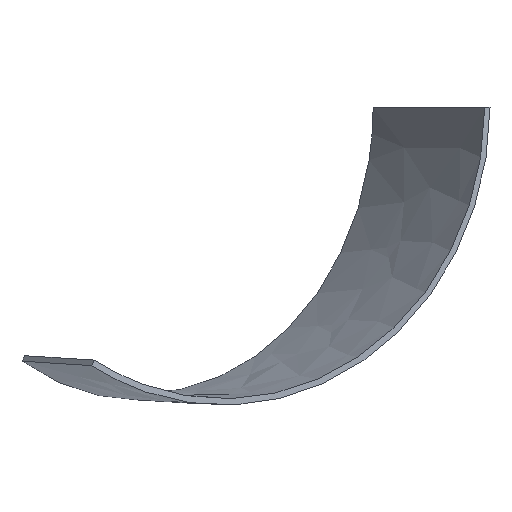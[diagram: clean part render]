
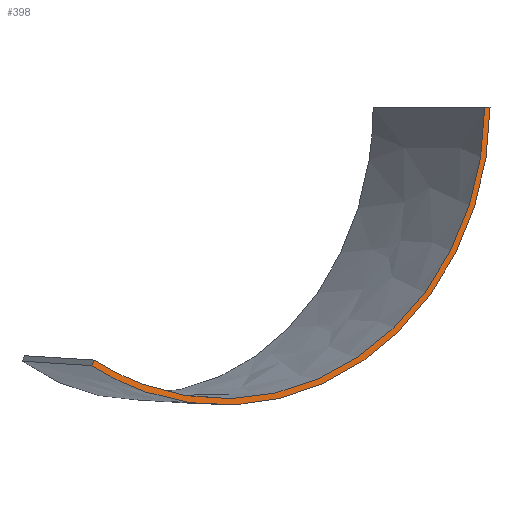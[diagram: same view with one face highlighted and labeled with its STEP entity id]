
A CAD part, left-side view. The second image highlights one B-rep face of the part: STEP entity #398.
In plain terms, the highlighted free-form (B-spline) face has degree [1, 3] with [2, 10] control points.
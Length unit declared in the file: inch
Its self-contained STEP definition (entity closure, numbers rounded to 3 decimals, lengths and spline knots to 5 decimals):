
#4 = CARTESIAN_POINT ( 'NONE',  ( 66.66583, -130.83906, -22.54515 ) ) ;
#5 = CARTESIAN_POINT ( 'NONE',  ( 51.76508, -101.59469, -34.54213 ) ) ;
#7 = VERTEX_POINT ( 'NONE', #56 ) ;
#9 = CARTESIAN_POINT ( 'NONE',  ( 70.14569, -137.66867, -6.16509 ) ) ;
#12 = CARTESIAN_POINT ( 'NONE',  ( 57.33888, -112.46132, -35.26935 ) ) ;
#13 = EDGE_CURVE ( 'NONE', #453, #44, #16, .T. ) ;
#16 = B_SPLINE_CURVE_WITH_KNOTS ( 'NONE', 1,
 ( #338, #257 ),
 .UNSPECIFIED., .F., .F.,
 ( 2, 2 ),
 ( 0., 1. ),
 .UNSPECIFIED. ) ;
#20 = CARTESIAN_POINT ( 'NONE',  ( 70.56301, -138.31785, -0.1277 ) ) ;
#25 = CARTESIAN_POINT ( 'NONE',  ( 46.51891, -91.30231, -30.61811 ) ) ;
#44 = VERTEX_POINT ( 'NONE', #362 ) ;
#48 = CARTESIAN_POINT ( 'NONE',  ( 69.41659, -136.23772, -12.09429 ) ) ;
#55 = CARTESIAN_POINT ( 'NONE',  ( 70.55284, -138.29797, -6.29826 ) ) ;
#56 = CARTESIAN_POINT ( 'NONE',  ( 46.51891, -91.30231, -30.61811 ) ) ;
#58 = CARTESIAN_POINT ( 'NONE',  ( 59.94251, -117.6438, -32.925 ) ) ;
#63 = CARTESIAN_POINT ( 'NONE',  ( 66.98755, -131.3271, -23.0329 ) ) ;
#66 = EDGE_CURVE ( 'NONE', #453, #326, #124, .T. ) ;
#94 = CARTESIAN_POINT ( 'NONE',  ( 46.68963, -91.63355, -29.96724 ) ) ;
#97 = CARTESIAN_POINT ( 'NONE',  ( 69.80587, -136.8375, -12.35563 ) ) ;
#101 = CARTESIAN_POINT ( 'NONE',  ( 64.69207, -126.96534, -26.88488 ) ) ;
#104 = CARTESIAN_POINT ( 'NONE',  ( 66.66583, -130.83906, -22.54515 ) ) ;
#124 = B_SPLINE_CURVE_WITH_KNOTS ( 'NONE', 3,
 ( #353, #139, #48, #4, #143, #380, #302, #252, #224, #383 ),
 .UNSPECIFIED., .F., .F.,
 ( 4, 2, 2, 2, 4 ),
 ( 0., 0.25, 0.5, 0.75, 1. ),
 .UNSPECIFIED. ) ;
#139 = CARTESIAN_POINT ( 'NONE',  ( 70.14569, -137.66867, -6.16509 ) ) ;
#143 = CARTESIAN_POINT ( 'NONE',  ( 64.69207, -126.96534, -26.88488 ) ) ;
#148 = CARTESIAN_POINT ( 'NONE',  ( 48.95707, -96.07076, -33.68441 ) ) ;
#151 = CARTESIAN_POINT ( 'NONE',  ( 69.41659, -136.23772, -12.09429 ) ) ;
#154 = CARTESIAN_POINT ( 'NONE',  ( 46.68963, -91.63355, -29.96724 ) ) ;
#181 = CARTESIAN_POINT ( 'NONE',  ( 49.06936, -96.30403, -32.96835 ) ) ;
#186 = CARTESIAN_POINT ( 'NONE',  ( 48.95707, -96.07077, -33.68442 ) ) ;
#190 = CARTESIAN_POINT ( 'NONE',  ( 51.71925, -101.47243, -35.29227 ) ) ;
#221 = B_SPLINE_SURFACE_WITH_KNOTS ( 'NONE', 1, 3, ( 
 ( #20, #310, #97, #386, #471, #225, #417, #190, #186, #313 ),
 ( #512, #9, #151, #104, #101, #58, #228, #5, #181, #420 ) ),
 .UNSPECIFIED., .F., .F., .F.,
 ( 2, 2 ),
 ( 4, 2, 2, 2, 4 ),
 ( 0., 1. ),
 ( 0., 0.25, 0.5, 0.75, 1. ),
 .UNSPECIFIED. ) ;
#224 = CARTESIAN_POINT ( 'NONE',  ( 49.06936, -96.30403, -32.96835 ) ) ;
#225 = CARTESIAN_POINT ( 'NONE',  ( 60.09853, -117.85733, -33.63897 ) ) ;
#228 = CARTESIAN_POINT ( 'NONE',  ( 57.24939, -112.35826, -34.52026 ) ) ;
#252 = CARTESIAN_POINT ( 'NONE',  ( 51.76508, -101.59469, -34.54213 ) ) ;
#256 = CARTESIAN_POINT ( 'NONE',  ( 64.9652, -127.373, -27.46703 ) ) ;
#257 = CARTESIAN_POINT ( 'NONE',  ( 70.56301, -138.31785, -0.1277 ) ) ;
#302 = CARTESIAN_POINT ( 'NONE',  ( 57.24939, -112.35826, -34.52026 ) ) ;
#303 = CARTESIAN_POINT ( 'NONE',  ( 46.51891, -91.30231, -30.61811 ) ) ;
#307 = CARTESIAN_POINT ( 'NONE',  ( 70.56301, -138.31785, -0.1277 ) ) ;
#310 = CARTESIAN_POINT ( 'NONE',  ( 70.55284, -138.29797, -6.29826 ) ) ;
#313 = CARTESIAN_POINT ( 'NONE',  ( 46.51891, -91.30231, -30.61811 ) ) ;
#326 = VERTEX_POINT ( 'NONE', #94 ) ;
#332 = ORIENTED_EDGE ( 'NONE', *, *, #394, .F. ) ;
#338 = CARTESIAN_POINT ( 'NONE',  ( 70.15562, -137.68815, -0.125 ) ) ;
#353 = CARTESIAN_POINT ( 'NONE',  ( 70.15562, -137.68815, -0.125 ) ) ;
#357 = CARTESIAN_POINT ( 'NONE',  ( 70.15562, -137.68815, -0.125 ) ) ;
#362 = CARTESIAN_POINT ( 'NONE',  ( 70.56301, -138.31785, -0.1277 ) ) ;
#377 = CARTESIAN_POINT ( 'NONE',  ( 60.09853, -117.85733, -33.63897 ) ) ;
#380 = CARTESIAN_POINT ( 'NONE',  ( 59.94251, -117.6438, -32.925 ) ) ;
#383 = CARTESIAN_POINT ( 'NONE',  ( 46.68963, -91.63355, -29.96724 ) ) ;
#384 = ORIENTED_EDGE ( 'NONE', *, *, #13, .F. ) ;
#386 = CARTESIAN_POINT ( 'NONE',  ( 66.98755, -131.3271, -23.0329 ) ) ;
#394 = EDGE_CURVE ( 'NONE', #44, #7, #460, .T. ) ;
#398 = ADVANCED_FACE ( 'NONE', ( #498 ), #221, .T. ) ;
#411 = EDGE_LOOP ( 'NONE', ( #384, #504, #527, #332 ) ) ;
#417 = CARTESIAN_POINT ( 'NONE',  ( 57.33888, -112.46132, -35.26935 ) ) ;
#420 = CARTESIAN_POINT ( 'NONE',  ( 46.68963, -91.63355, -29.96724 ) ) ;
#451 = EDGE_CURVE ( 'NONE', #326, #7, #503, .T. ) ;
#453 = VERTEX_POINT ( 'NONE', #357 ) ;
#460 = B_SPLINE_CURVE_WITH_KNOTS ( 'NONE', 3,
 ( #307, #55, #502, #63, #256, #377, #12, #506, #148, #303 ),
 .UNSPECIFIED., .F., .F.,
 ( 4, 2, 2, 2, 4 ),
 ( 0., 0.25, 0.5, 0.75, 1. ),
 .UNSPECIFIED. ) ;
#471 = CARTESIAN_POINT ( 'NONE',  ( 64.9652, -127.373, -27.46703 ) ) ;
#498 = FACE_OUTER_BOUND ( 'NONE', #411, .T. ) ;
#502 = CARTESIAN_POINT ( 'NONE',  ( 69.80587, -136.8375, -12.35563 ) ) ;
#503 = B_SPLINE_CURVE_WITH_KNOTS ( 'NONE', 1,
 ( #154, #25 ),
 .UNSPECIFIED., .F., .F.,
 ( 2, 2 ),
 ( 0., 1. ),
 .UNSPECIFIED. ) ;
#504 = ORIENTED_EDGE ( 'NONE', *, *, #66, .T. ) ;
#506 = CARTESIAN_POINT ( 'NONE',  ( 51.71925, -101.47243, -35.29227 ) ) ;
#512 = CARTESIAN_POINT ( 'NONE',  ( 70.15562, -137.68815, -0.125 ) ) ;
#527 = ORIENTED_EDGE ( 'NONE', *, *, #451, .T. ) ;
